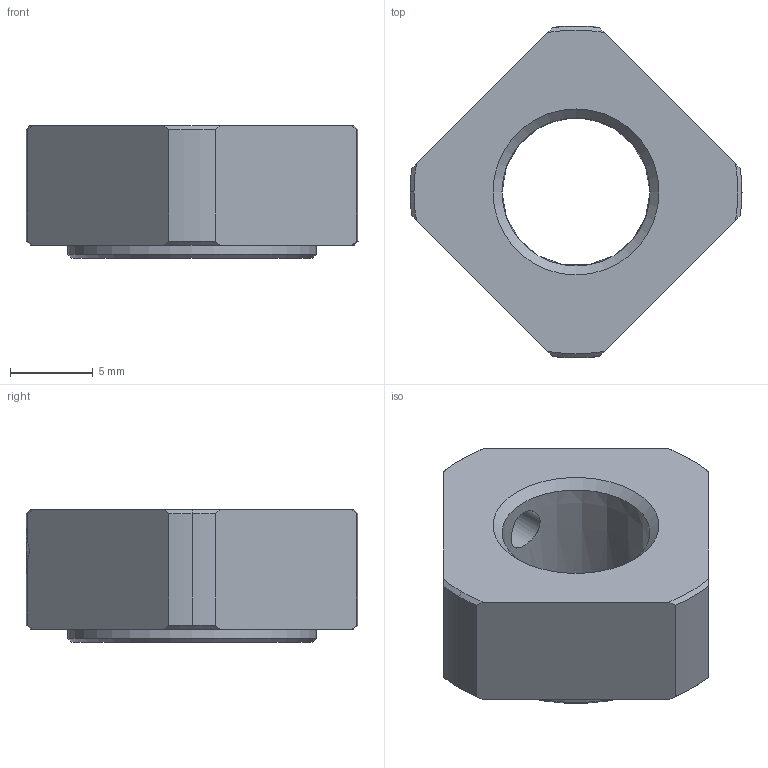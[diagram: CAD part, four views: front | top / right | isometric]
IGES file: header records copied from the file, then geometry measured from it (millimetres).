
Start section: Data from Parasolid IGES Translator 26.0.171, Copyright(c) 2006 Siemens PLM Software. All Rights Reserved.
Global section: file name: RN 10.igs; native system: By Siemens PLM Incorporated; preprocessor: XPlus GENERIC/IGES 26.0.171; author: Noname; organization: Noname; date: 20250611.074112; units: millimetre
Bounding box: 20 x 19.99 x 8 mm (x, y, z)
Surface area: 1058 mm2 (no closed solid volume)
Topology: 0 solids, 0 shells, 40 faces, 212 edges, 208 vertices
Faces by surface type: revolution 24, extrusion 16
